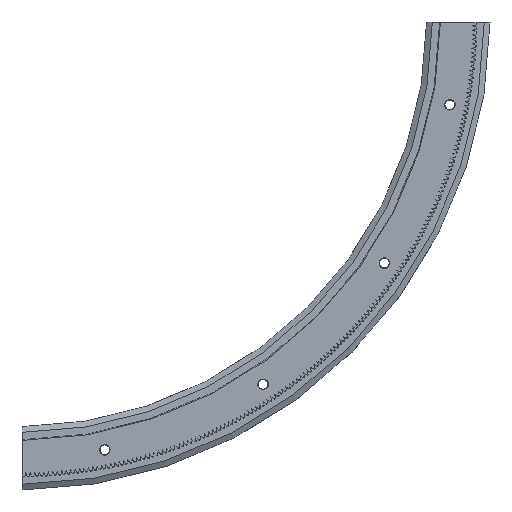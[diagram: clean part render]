
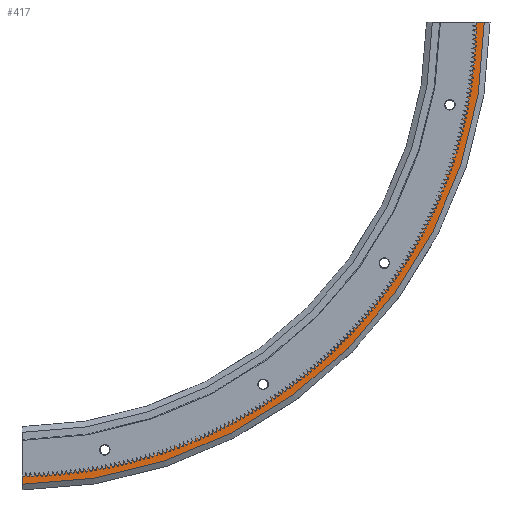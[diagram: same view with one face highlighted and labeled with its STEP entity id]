
A CAD part, front view. The second image highlights one B-rep face of the part: STEP entity #417.
In plain terms, the highlighted planar face has unit normal (0, -1, 0).
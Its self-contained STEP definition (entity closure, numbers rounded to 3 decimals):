
#417 = ADVANCED_FACE( '', ( #1744 ), #1745, .T. );
#1744 = FACE_OUTER_BOUND( '', #3728, .T. );
#1745 = PLANE( '', #3729 );
#3728 = EDGE_LOOP( '', ( #8697, #8698, #8699, #8700 ) );
#3729 = AXIS2_PLACEMENT_3D( '', #8701, #8702, #8703 );
#8697 = ORIENTED_EDGE( '', *, *, #15207, .T. );
#8698 = ORIENTED_EDGE( '', *, *, #15208, .T. );
#8699 = ORIENTED_EDGE( '', *, *, #14950, .F. );
#8700 = ORIENTED_EDGE( '', *, *, #13167, .T. );
#8701 = CARTESIAN_POINT( '', ( 0., 9.5, -316.4 ) );
#8702 = DIRECTION( '', ( 0., -1., 0. ) );
#8703 = DIRECTION( '', ( 0., 0., -1. ) );
#13167 = EDGE_CURVE( '', #15779, #15777, #15780, .T. );
#14950 = EDGE_CURVE( '', #15779, #19001, #19002, .T. );
#15207 = EDGE_CURVE( '', #15777, #19307, #19308, .T. );
#15208 = EDGE_CURVE( '', #19307, #19001, #19309, .T. );
#15777 = VERTEX_POINT( '', #20039 );
#15779 = VERTEX_POINT( '', #20044 );
#15780 = LINE( '', #20045, #20046 );
#19001 = VERTEX_POINT( '', #25346 );
#19002 = CIRCLE( '', #25347, 316.4 );
#19307 = VERTEX_POINT( '', #25653 );
#19308 = CIRCLE( '', #25654, 324.086 );
#19309 = LINE( '', #25655, #25656 );
#20039 = CARTESIAN_POINT( '', ( 2., 9.5, -324.079 ) );
#20044 = CARTESIAN_POINT( '', ( 2., 9.5, -316.394 ) );
#20045 = CARTESIAN_POINT( '', ( 2., 9.5, -316.4 ) );
#20046 = VECTOR( '', #26636, 1000. );
#25346 = CARTESIAN_POINT( '', ( 316.394, 9.5, -2. ) );
#25347 = AXIS2_PLACEMENT_3D( '', #28629, #28630, #28631 );
#25653 = CARTESIAN_POINT( '', ( 324.079, 9.5, -2. ) );
#25654 = AXIS2_PLACEMENT_3D( '', #29398, #29399, #29400 );
#25655 = CARTESIAN_POINT( '', ( 0., 9.5, -2. ) );
#25656 = VECTOR( '', #29401, 1000. );
#26636 = DIRECTION( '', ( 0., 0., -1. ) );
#28629 = CARTESIAN_POINT( '', ( 0., 9.5, 0. ) );
#28630 = DIRECTION( '', ( 0., -1., 0. ) );
#28631 = DIRECTION( '', ( 0., 0., -1. ) );
#29398 = CARTESIAN_POINT( '', ( 0., 9.5, 0. ) );
#29399 = DIRECTION( '', ( 0., -1., 0. ) );
#29400 = DIRECTION( '', ( 0., 0., -1. ) );
#29401 = DIRECTION( '', ( -1., 0., 0. ) );
